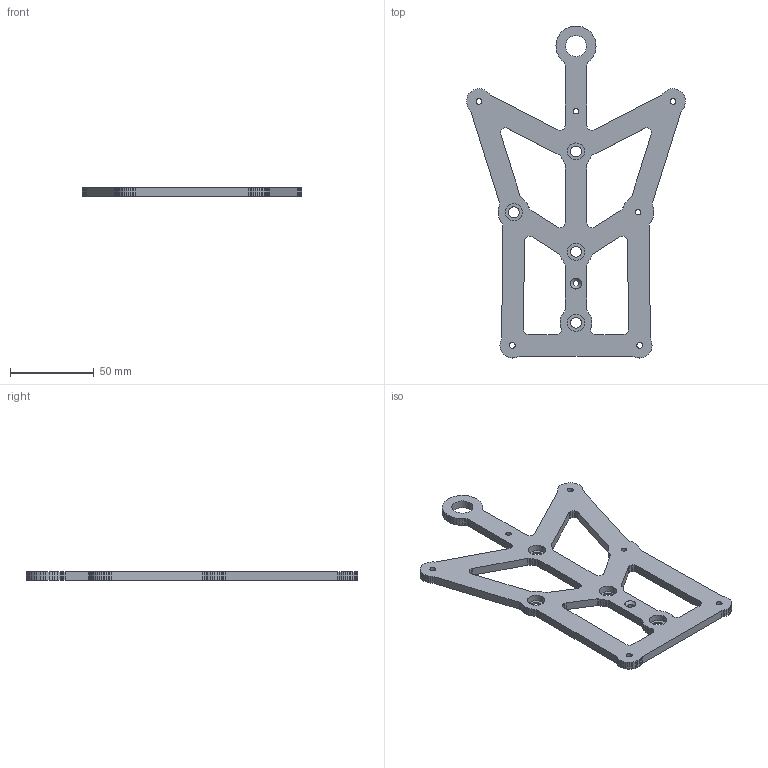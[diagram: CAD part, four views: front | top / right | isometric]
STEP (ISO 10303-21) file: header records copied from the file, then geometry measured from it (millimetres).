
FILE_DESCRIPTION(('Open CASCADE Model'),'2;1');
FILE_NAME('Open CASCADE Shape Model','2026-10-12T22:10:13',('Author'),( 'Open CASCADE'),'Open CASCADE STEP processor 7.9','Open CASCADE 7.9' ,'Unknown');
FILE_SCHEMA(('AUTOMOTIVE_DESIGN { 1 0 10303 214 1 1 1 1 }'));
Length unit declared in the file: millimetre
Products named in the file (1): Open CASCADE STEP translator 7.9 2
Bounding box: 130.98 x 198.48 x 5 mm (x, y, z)
Volume: 46831.9 mm3; surface area: 26697 mm2
Topology: 1 solids, 1 shells, 341 faces, 1004 edges, 669 vertices
Faces by surface type: plane 324, cylinder 16, cone 1
Full cylindrical faces by diameter (mm): 3.2 x2, 3.5 x5, 6.5 x4, 10.2 x4, 12.6 x1
Entity records: 24341 total; most frequent: CARTESIAN_POINT 4167, DIRECTION 3705, LINE 2947, VECTOR 2947, ORIENTED_EDGE 2008, PCURVE 2008, DEFINITIONAL_REPRESENTATION 2008, EDGE_CURVE 1004
